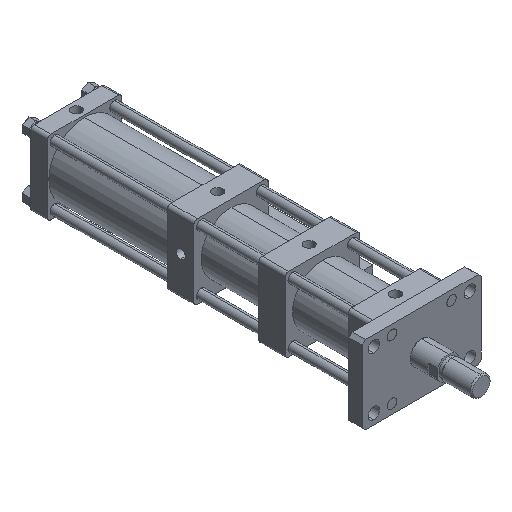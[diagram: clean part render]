
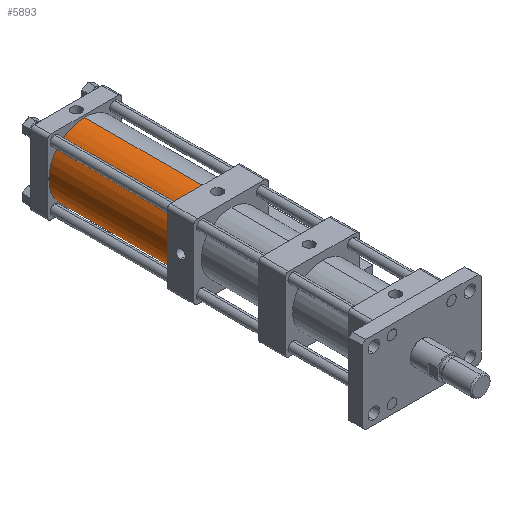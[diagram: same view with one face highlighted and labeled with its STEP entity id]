
A CAD part, isometric view. The second image highlights one B-rep face of the part: STEP entity #5893.
In plain terms, the highlighted cylindrical face has radius 54 mm (diameter 108 mm), a partial arc.
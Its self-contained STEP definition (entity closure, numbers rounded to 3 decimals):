
#322 = LINE ( 'NONE', #2888, #3382 ) ;
#436 = ORIENTED_EDGE ( 'NONE', *, *, #7287, .F. ) ;
#446 = CARTESIAN_POINT ( 'NONE',  ( 0., 509.002, 52.362 ) ) ;
#875 = ORIENTED_EDGE ( 'NONE', *, *, #1328, .T. ) ;
#930 = AXIS2_PLACEMENT_3D ( 'NONE', #5383, #1683, #6006 ) ;
#1013 = EDGE_LOOP ( 'NONE', ( #3005, #436, #7759, #875 ) ) ;
#1328 = EDGE_CURVE ( 'NONE', #2458, #7222, #3463, .T. ) ;
#1683 = DIRECTION ( 'NONE',  ( 0., 1., 0. ) ) ;
#1967 = CIRCLE ( 'NONE', #930, 54. ) ;
#2376 = VECTOR ( 'NONE', #4420, 1000. ) ;
#2458 = VERTEX_POINT ( 'NONE', #5122 ) ;
#2819 = VERTEX_POINT ( 'NONE', #446 ) ;
#2888 = CARTESIAN_POINT ( 'NONE',  ( 0., 509.002, 52.362 ) ) ;
#3005 = ORIENTED_EDGE ( 'NONE', *, *, #4502, .F. ) ;
#3081 = EDGE_CURVE ( 'NONE', #4514, #2458, #4018, .T. ) ;
#3093 = CARTESIAN_POINT ( 'NONE',  ( 0., 328.002, -1.638 ) ) ;
#3382 = VECTOR ( 'NONE', #3515, 1000. ) ;
#3463 = CIRCLE ( 'NONE', #4651, 54. ) ;
#3515 = DIRECTION ( 'NONE',  ( 0., -1., 0. ) ) ;
#3733 = DIRECTION ( 'NONE',  ( 0., 0., 1. ) ) ;
#3795 = CARTESIAN_POINT ( 'NONE',  ( 0., 509.002, -55.638 ) ) ;
#4018 = LINE ( 'NONE', #3795, #2376 ) ;
#4181 = DIRECTION ( 'NONE',  ( 0., 0., -1. ) ) ;
#4420 = DIRECTION ( 'NONE',  ( 0., -1., 0. ) ) ;
#4502 = EDGE_CURVE ( 'NONE', #2819, #7222, #322, .T. ) ;
#4514 = VERTEX_POINT ( 'NONE', #4751 ) ;
#4651 = AXIS2_PLACEMENT_3D ( 'NONE', #3093, #7417, #3733 ) ;
#4751 = CARTESIAN_POINT ( 'NONE',  ( 0., 509.002, -55.638 ) ) ;
#4882 = CYLINDRICAL_SURFACE ( 'NONE', #5970, 54. ) ;
#5122 = CARTESIAN_POINT ( 'NONE',  ( 0., 328.002, -55.638 ) ) ;
#5383 = CARTESIAN_POINT ( 'NONE',  ( 0., 509.002, -1.638 ) ) ;
#5893 = ADVANCED_FACE ( 'NONE', ( #6732 ), #4882, .T. ) ;
#5970 = AXIS2_PLACEMENT_3D ( 'NONE', #7868, #7263, #4181 ) ;
#6006 = DIRECTION ( 'NONE',  ( 0., 0., 1. ) ) ;
#6732 = FACE_OUTER_BOUND ( 'NONE', #1013, .T. ) ;
#7222 = VERTEX_POINT ( 'NONE', #7690 ) ;
#7263 = DIRECTION ( 'NONE',  ( 0., -1., 0. ) ) ;
#7287 = EDGE_CURVE ( 'NONE', #4514, #2819, #1967, .T. ) ;
#7417 = DIRECTION ( 'NONE',  ( 0., 1., 0. ) ) ;
#7690 = CARTESIAN_POINT ( 'NONE',  ( 0., 328.002, 52.362 ) ) ;
#7759 = ORIENTED_EDGE ( 'NONE', *, *, #3081, .T. ) ;
#7868 = CARTESIAN_POINT ( 'NONE',  ( 0., 509.002, -1.638 ) ) ;
